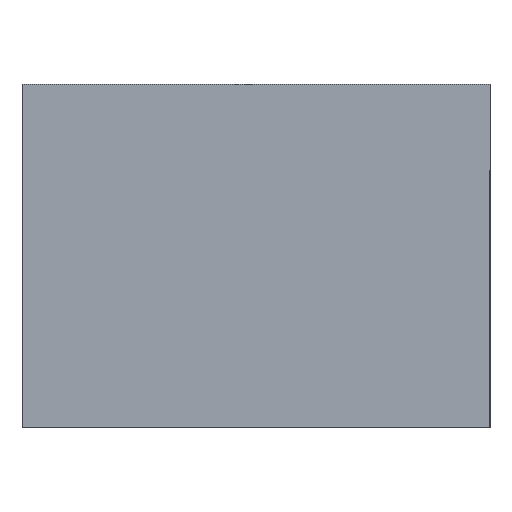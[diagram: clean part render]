
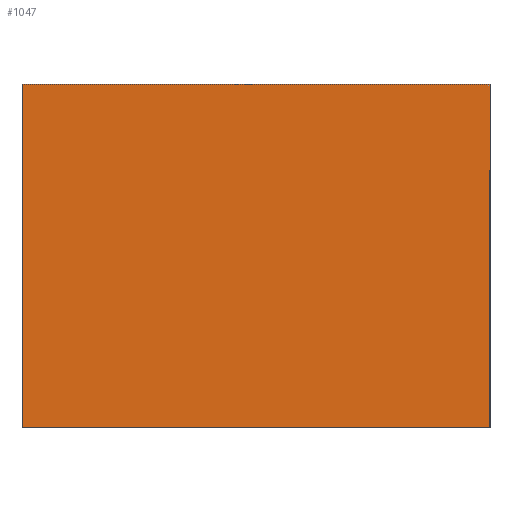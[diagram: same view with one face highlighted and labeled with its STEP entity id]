
A CAD part, front view. The second image highlights one B-rep face of the part: STEP entity #1047.
In plain terms, the highlighted planar face has unit normal (0, -1, 0).
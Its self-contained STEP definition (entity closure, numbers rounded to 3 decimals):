
#47 = VECTOR ( 'NONE', #401, 1000. ) ;
#81 = CARTESIAN_POINT ( 'NONE',  ( -37.5, 0., -27.5 ) ) ;
#197 = CARTESIAN_POINT ( 'NONE',  ( -37.5, 0., -27.5 ) ) ;
#260 = CARTESIAN_POINT ( 'NONE',  ( -37.5, 0., -27.5 ) ) ;
#276 = DIRECTION ( 'NONE',  ( -1., 0., 0. ) ) ;
#342 = VERTEX_POINT ( 'NONE', #81 ) ;
#371 = EDGE_CURVE ( 'NONE', #988, #1174, #996, .T. ) ;
#401 = DIRECTION ( 'NONE',  ( 0., 0., 1. ) ) ;
#436 = VECTOR ( 'NONE', #613, 1000. ) ;
#497 = CARTESIAN_POINT ( 'NONE',  ( 37.5, 0., -27.5 ) ) ;
#537 = ORIENTED_EDGE ( 'NONE', *, *, #371, .F. ) ;
#553 = PLANE ( 'NONE',  #1617 ) ;
#613 = DIRECTION ( 'NONE',  ( 0., 0., -1. ) ) ;
#628 = ORIENTED_EDGE ( 'NONE', *, *, #1141, .F. ) ;
#777 = CARTESIAN_POINT ( 'NONE',  ( 0., 0., 0. ) ) ;
#939 = ORIENTED_EDGE ( 'NONE', *, *, #940, .F. ) ;
#940 = EDGE_CURVE ( 'NONE', #342, #1615, #2640, .T. ) ;
#988 = VERTEX_POINT ( 'NONE', #1986 ) ;
#996 = LINE ( 'NONE', #497, #436 ) ;
#1047 = ADVANCED_FACE ( 'NONE', ( #1868 ), #553, .F. ) ;
#1141 = EDGE_CURVE ( 'NONE', #1615, #988, #1183, .T. ) ;
#1174 = VERTEX_POINT ( 'NONE', #1856 ) ;
#1183 = LINE ( 'NONE', #1282, #2257 ) ;
#1282 = CARTESIAN_POINT ( 'NONE',  ( -37.5, 0., 27.5 ) ) ;
#1502 = DIRECTION ( 'NONE',  ( 1., 0., 0. ) ) ;
#1515 = EDGE_LOOP ( 'NONE', ( #537, #628, #939, #2072 ) ) ;
#1615 = VERTEX_POINT ( 'NONE', #1657 ) ;
#1617 = AXIS2_PLACEMENT_3D ( 'NONE', #777, #2394, #2583 ) ;
#1657 = CARTESIAN_POINT ( 'NONE',  ( -37.5, 0., 27.5 ) ) ;
#1811 = VECTOR ( 'NONE', #276, 1000. ) ;
#1856 = CARTESIAN_POINT ( 'NONE',  ( 37.5, 0., -27.5 ) ) ;
#1868 = FACE_OUTER_BOUND ( 'NONE', #1515, .T. ) ;
#1874 = LINE ( 'NONE', #260, #1811 ) ;
#1986 = CARTESIAN_POINT ( 'NONE',  ( 37.5, 0., 27.5 ) ) ;
#2072 = ORIENTED_EDGE ( 'NONE', *, *, #2336, .F. ) ;
#2257 = VECTOR ( 'NONE', #1502, 1000. ) ;
#2336 = EDGE_CURVE ( 'NONE', #1174, #342, #1874, .T. ) ;
#2394 = DIRECTION ( 'NONE',  ( 0., 1., 0. ) ) ;
#2583 = DIRECTION ( 'NONE',  ( 0., 0., 1. ) ) ;
#2640 = LINE ( 'NONE', #197, #47 ) ;
